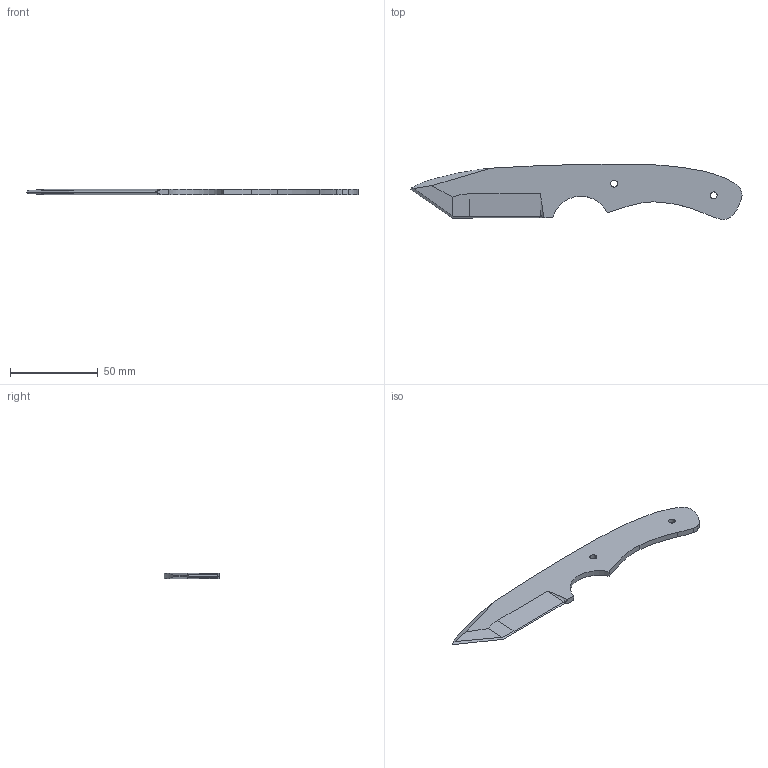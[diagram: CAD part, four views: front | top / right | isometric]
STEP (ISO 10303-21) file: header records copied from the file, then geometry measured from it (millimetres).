
FILE_DESCRIPTION (( 'STEP AP203' ), '1' );
FILE_NAME ('KNIFE.STEP', '2018-02-08T20:53:53', ( '' ), ( '' ), 'SwSTEP 2.0', 'SolidWorks 2015', '' );
FILE_SCHEMA (( 'CONFIG_CONTROL_DESIGN' ));
Length unit declared in the file: inch
Products named in the file (1): KNIFE
Bounding box: 189.41 x 31.65 x 3.17 mm (x, y, z)
Volume: 12407.8 mm3; surface area: 9674.9 mm2
Topology: 1 solids, 1 shells, 41 faces, 116 edges, 75 vertices
Faces by surface type: cylinder 20, plane 11, cone 6, bspline 4
Entity records: 1709 total; most frequent: CARTESIAN_POINT 635, ORIENTED_EDGE 228, DIRECTION 190, EDGE_CURVE 114, AXIS2_PLACEMENT_3D 76, VERTEX_POINT 75, EDGE_LOOP 45, FACE_OUTER_BOUND 41
